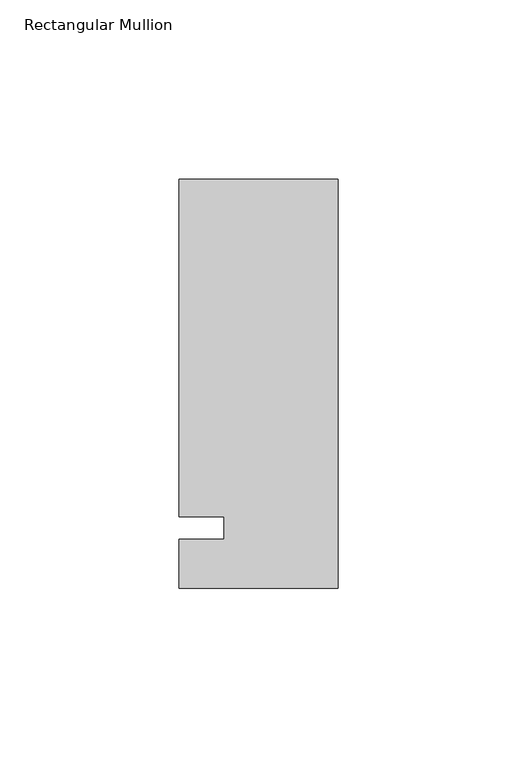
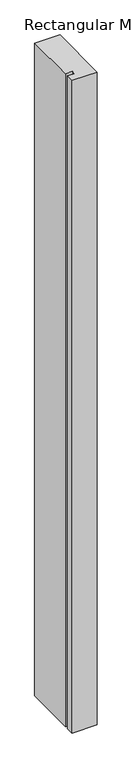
"""IFC4 building model written with IfcOpenShell, lengths in millimetres: member geometry, Rectangular Mullion : Kawneer-TRIFAB_VG_450_BACK_SB_Jamb L."""

from ifc_helpers import new_model, si_unit, frame, origin, place, context, project, spatial, polyline, outline, extrude, source, transform, mapped, element, save


def rectangular_mullion_b4cfd369(model_context):
    return source(origin(), model_context, "Body", "SweptSolid", [
        extrude(outline(polyline([(-44.45, -16.8671875), (-44.45, -3.2340721), (-31.7482296, -3.2340721), (-31.7482296, 3.1159279), (-44.45, 3.1159279), (-44.45, 97.4328125), (0.0, 97.4328125), (0.0, -16.8671875), (-44.45, -16.8671875)])), frame((0.0, 0.0, -1219.2), z_axis=(0.0, 0.0, 1.0), x_axis=(1.0, 0.0, 0.0)), (0.0, 0.0, 1.0), 1219.2),
    ])


if __name__ == "__main__":
    model = new_model("IFC4")
    model_context = context("Model", 3, world=origin())
    ifc_project = project(units=[si_unit("LENGTHUNIT", "METRE", prefix="MILLI")], contexts=[model_context])
    site = spatial("IfcSite", under=ifc_project)
    building = spatial("IfcBuilding", under=site)
    placement = place(None, origin())
    rectangular_mullion_shape = rectangular_mullion_b4cfd369(model_context)
    element("IfcMember", 1, ObjectType="Rectangular Mullion : Kawneer-TRIFAB_VG_450_BACK_SB_Jamb L", at=placement, inside=building, context=model_context, shape_type="MappedRepresentation", body=[
        mapped(rectangular_mullion_shape, transform((0.0, 0.0, 0.0), x_axis=(1.0, 0.0, 0.0), y_axis=(0.0, 1.0, 0.0), z_axis=(0.0, 0.0, 1.0))),
    ])
    save(model, "model.ifc")
